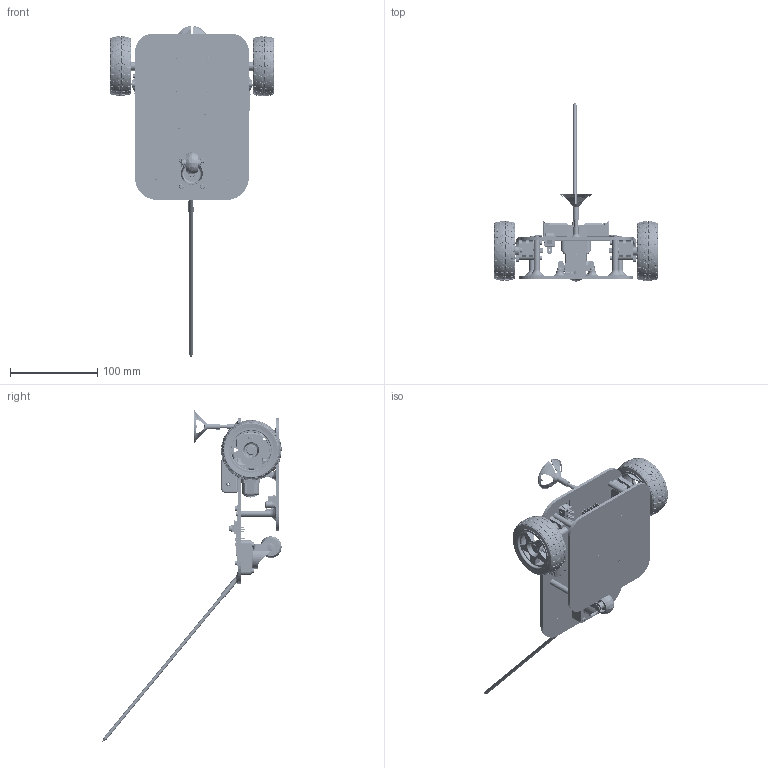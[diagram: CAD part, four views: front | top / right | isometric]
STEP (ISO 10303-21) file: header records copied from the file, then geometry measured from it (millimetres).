
FILE_DESCRIPTION(/* description */ (''),/* implementation_level */ '2;1');
FILE_NAME(/* name */ 'Chassi_Balloone.step',/* time_stamp */ '2026-11-19T18:22:40-03:00',/* author */ (''),/* organization */ (''),/* preprocessor_version */ 'ST-DEVELOPER v20.2',/* originating_system */ 'Autodesk Translation Framework v15.17.0.0',/* authorisation */ '');
FILE_SCHEMA (('AUTOMOTIVE_DESIGN { 1 0 10303 214 3 1 1 }'));
Products named in the file (88): 2026-10-24-17-07-31-179; 2026-10-24-20-43-22-366; 2026-10-24-20-43-22-367; 2026-10-24-20-43-22-368; 2026-10-24-20-43-22-369; 2026-10-24-20-43-22-370; 2026-10-24-20-43-22-371; 2026-10-24-20-43-22-372; 2026-10-24-18-13-56-885; 2026-10-22-02-08-14-866; 2026-10-22-02-08-01-031; 2026-10-22-02-08-01-032; 2026-10-22-02-08-01-033; 2026-10-22-02-08-01-034; 2026-10-22-02-08-01-035; 2026-10-22-02-08-01-036; 2026-10-22-02-08-01-037; 2026-10-22-02-08-01-038; 2026-10-22-02-08-01-039; 2026-10-22-02-08-01-040; 2026-10-22-02-08-04-915; 2026-10-27-01-05-27-152; 2026-10-27-01-05-27-153; 2026-10-27-01-05-27-154; 2026-10-27-01-05-27-155; 2026-10-27-01-05-27-156; 2026-10-28-00-09-14-980; 2026-10-28-00-09-14-981; 2026-10-28-00-09-14-982; 2026-10-27-20-50-24-926; 2026-10-30-21-23-20-180; 2026-10-30-21-23-20-181; 2026-10-30-21-23-20-182; 2026-10-30-21-23-20-183; 2026-10-30-21-23-20-184; 2026-10-30-21-23-20-185; 2026-10-30-21-23-20-186; 2026-10-30-21-23-20-187; 2026-10-30-21-23-20-188; 2026-10-30-21-23-20-189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
Assembly tree (145 placements, depth 5):
  2026-10-24-17-07-31-179
    2026-10-24-20-43-22-366
      2026-10-24-20-43-22-367
      2026-10-24-20-43-22-368
      2026-10-24-20-43-22-369
      2026-10-24-20-43-22-370
      2026-10-24-20-43-22-371
      2026-10-24-20-43-22-372
    2026-10-22-02-08-01-031  x2
      2026-10-22-02-08-01-032
      2026-10-22-02-08-01-033
      2026-10-22-02-08-01-034
      2026-10-22-02-08-01-035
      2026-10-22-02-08-01-036
      2026-10-22-02-08-01-037
      2026-10-22-02-08-01-038
      2026-10-22-02-08-01-039
      2026-10-22-02-08-01-040
    2026-10-24-18-13-56-885
    2026-10-22-02-08-14-866  x2
    2026-10-22-02-08-04-915
    2026-10-27-01-05-27-152
      2026-10-27-01-05-27-153
      2026-10-27-01-05-27-154  x2
      2026-10-27-01-05-27-155  x2
      2026-10-27-01-05-27-156  x4
    2026-10-28-00-09-14-980
      2026-10-28-00-09-14-981
      2026-10-28-00-09-14-982
    2026-10-27-20-50-24-926
    2026-10-30-21-23-20-180
      2026-10-30-21-23-20-181
      2026-10-30-21-23-20-182
      2026-10-30-21-23-20-183
      2026-10-30-21-23-20-184
      2026-10-30-21-23-20-185
      2026-10-30-21-23-20-186
      2026-10-30-21-23-20-187
      2026-10-30-21-23-20-188
      2026-10-30-21-23-20-189
      2026-10-30-21-23-20-190
      2026-10-30-21-23-20-191
      2026-10-30-21-23-20-192
    2026-10-31-02-58-28-373
      2026-10-31-02-58-28-374
    2026-10-22-02-08-16-098
      2026-10-22-02-08-16-099  x4
      2026-10-22-02-08-16-100
        2026-10-22-02-08-16-101
      2026-10-22-02-08-16-102
      2026-10-22-02-08-16-103
      2026-10-22-02-08-16-104
      2026-10-22-02-08-16-105
        2026-10-22-02-08-16-106
        2026-10-22-02-08-16-107  x4
        2026-10-22-02-08-16-108  x4
      2026-10-22-02-08-16-109
        2026-10-22-02-08-16-110
        2026-10-22-02-08-16-111
      2026-10-22-02-08-16-112  x20
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Bounding box: 188.63 x 205.41 x 379.9 mm (x, y, z)
Volume: 308667.2 mm3; surface area: 265260.6 mm2
Topology: 272 solids, 1108 shells, 15299 faces, 42744 edges, 28300 vertices
Faces by surface type: plane 9133, cylinder 3248, bspline 2148, sphere 294, torus 261, cone 215
Full cylindrical faces by diameter (mm): 0.1 x1, 0.33 x1, 0.4 x2, 0.45 x1, 0.5 x5, 0.51 x3, 0.8 x4, 1 x727, 1.66 x238, 1.778 x1, 1.8 x3, 1.9 x8, 1.95 x1, 2 x7, 2.056 x2, 2.19 x1, 2.2 x1, 2.5 x10, 2.6 x24, 2.8 x3, 3 x122, 3.1 x4, 3.14 x2, 3.3 x7, 3.4 x8, 3.5 x1, 3.8 x2, 4 x6, 4.1 x1, 4.2 x4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
Entity records: 490887 total; most frequent: CARTESIAN_POINT 176053, ORIENTED_EDGE 64746, DIRECTION 58559, EDGE_CURVE 33999, LINE 23523, VECTOR 23523, VERTEX_POINT 22867, AXIS2_PLACEMENT_3D 17518
